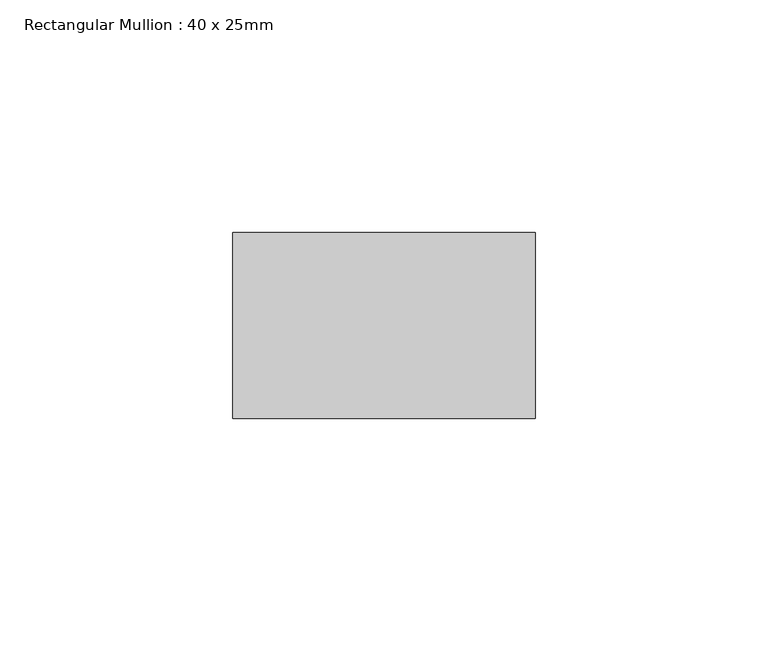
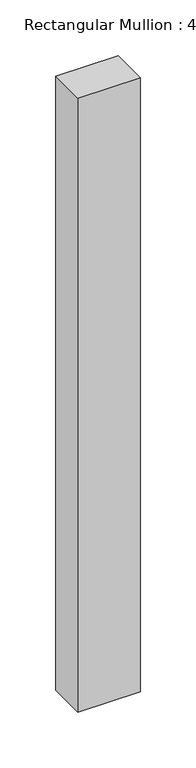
"""IFC4 building model written with IfcOpenShell, lengths in millimetres: member geometry, Rectangular Mullion : 40 x 25mm."""

import ifcopenshell
import ifcopenshell.guid

model = None  # the IFC model being written
_history = None  # IfcOwnerHistory: only IFC2X3 demands one
_inside = {}  # id of a spatial element -> (the spatial element, [elements in it])
_under = {}  # id of a project, library or spatial element -> (it, [spatial elements below it])
_declared = {}  # id of a project -> (the project, [libraries it declares])
_typed = {}  # id of a type object -> (the type object, [elements of that type])
_made_of = {}  # id of a material, layer set ... -> (it, [elements and type objects made of it])


def new_model(schema):
    """Start an empty IFC model of exactly this schema.

    Asked for "IFC4X3", IfcOpenShell would pick the latest addendum, in which some entities
    have other attributes; the version numbers below select the first issue.
    IFC2X3 requires an IfcOwnerHistory on every rooted entity: one is made here for all.
    """
    global model, _history
    if schema == "IFC4X3":
        model = ifcopenshell.file(schema_version=(4, 3, 0, 0))
    else:
        model = ifcopenshell.file(schema=schema)
    _inside.clear()
    _under.clear()
    _declared.clear()
    _typed.clear()
    _made_of.clear()
    _history = None
    if model.schema == "IFC2X3":
        org = make("IfcOrganization", Name="unknown")
        user = make(
            "IfcPersonAndOrganization",
            ThePerson=make("IfcPerson", FamilyName="unknown"),
            TheOrganization=org,
        )
        app = make(
            "IfcApplication",
            ApplicationDeveloper=org,
            Version="unknown",
            ApplicationFullName="unknown",
            ApplicationIdentifier="unknown",
        )
        _history = make(
            "IfcOwnerHistory",
            OwningUser=user,
            OwningApplication=app,
            ChangeAction="ADDED",
            CreationDate=0,
        )
    return model


def make(cls, **values):
    """One entity of the class cls with the attributes given. An attribute that is None is left unset."""
    return model.create_entity(
        cls, **{name: value for name, value in values.items() if value is not None}
    )


def rooted(cls, **values):
    """An entity with a GlobalId (a new one), such as an element, a storey or a relation."""
    return make(cls, GlobalId=ifcopenshell.guid.new(), OwnerHistory=_history, **values)


def si_unit(unit_type, name, prefix=None):
    """IfcSIUnit, for example si_unit("LENGTHUNIT", "METRE", prefix="MILLI")."""
    return make("IfcSIUnit", UnitType=unit_type, Prefix=prefix, Name=name)


def assignment(units):
    """IfcUnitAssignment: the units of a project."""
    return None if units is None else make("IfcUnitAssignment", Units=units)


def point(xyz):
    """IfcCartesianPoint."""
    return None if xyz is None else make("IfcCartesianPoint", Coordinates=xyz)


def direction(xyz):
    """IfcDirection."""
    return None if xyz is None else make("IfcDirection", DirectionRatios=xyz)


def frame(location, z_axis=None, x_axis=None):
    """IfcAxis2Placement3D, a coordinate frame: its origin and axes. An axis left out is left unset."""
    return make(
        "IfcAxis2Placement3D",
        Location=point(location),
        Axis=direction(z_axis),
        RefDirection=direction(x_axis),
    )


def origin():
    """The frame at (0, 0, 0) with its axes left unset."""
    return frame((0.0, 0.0, 0.0))


def place(relative_to, where):
    """IfcLocalPlacement: puts the frame where relative to a parent placement (None: the world)."""
    return make(
        "IfcLocalPlacement", PlacementRelTo=relative_to, RelativePlacement=where
    )


def context(
    kind, dimensions, precision=None, world=None, true_north=None, identifier=None
):
    """IfcGeometricRepresentationContext, for example the 3D "Model" context."""
    return make(
        "IfcGeometricRepresentationContext",
        ContextIdentifier=identifier,
        ContextType=kind,
        CoordinateSpaceDimension=dimensions,
        Precision=precision,
        WorldCoordinateSystem=world,
        TrueNorth=true_north,
    )


def project(units=None, contexts=None):
    """IfcProject with its units and contexts."""
    return rooted(
        "IfcProject",
        Name="project",
        RepresentationContexts=contexts,
        UnitsInContext=assignment(units),
    )


def spatial(cls, under=None, at=None, **own):
    """A site, building, storey or space (cls), placed at a placement, below another one or the project."""
    s = rooted(cls, ObjectPlacement=at, **own)
    if under is not None:
        _under.setdefault(under.id(), (under, []))[1].append(s)
    return s


def polyline(points):
    """IfcPolyline through the points."""
    return make("IfcPolyline", Points=[point(p) for p in points])


def outline(outer, holes=None, kind="AREA"):
    """IfcArbitraryClosedProfileDef: a profile drawn as a closed curve; with holes, ...WithVoids."""
    if holes is None:
        return make("IfcArbitraryClosedProfileDef", ProfileType=kind, OuterCurve=outer)
    return make(
        "IfcArbitraryProfileDefWithVoids",
        ProfileType=kind,
        OuterCurve=outer,
        InnerCurves=holes,
    )


def extrude(swept, where, along, depth):
    """IfcExtrudedAreaSolid: the profile swept, set in the frame where, extruded along a direction by depth."""
    return make(
        "IfcExtrudedAreaSolid",
        SweptArea=swept,
        Position=where,
        ExtrudedDirection=direction(along),
        Depth=depth,
    )


def shape(context_of_items, identifier, shape_type, items):
    """IfcShapeRepresentation: the items that make up one representation, for example the "Body"."""
    return make(
        "IfcShapeRepresentation",
        ContextOfItems=context_of_items,
        RepresentationIdentifier=identifier,
        RepresentationType=shape_type,
        Items=items,
    )


def source(mapping_origin, context_of_items, identifier, shape_type, items):
    """IfcRepresentationMap: a shape defined once, which mapped items show again and again."""
    return make(
        "IfcRepresentationMap",
        MappingOrigin=mapping_origin,
        MappedRepresentation=shape(context_of_items, identifier, shape_type, items),
    )


def transform(
    local_origin,
    x_axis=None,
    y_axis=None,
    z_axis=None,
    scale=None,
    scale2=None,
    scale3=None,
    uniform=True,
):
    """IfcCartesianTransformationOperator3D, or its non-uniform kind. x_axis, y_axis, z_axis: its Axis1, 2, 3."""
    if uniform:
        return make(
            "IfcCartesianTransformationOperator3D",
            Axis1=direction(x_axis),
            Axis2=direction(y_axis),
            LocalOrigin=point(local_origin),
            Scale=scale,
            Axis3=direction(z_axis),
        )
    return make(
        "IfcCartesianTransformationOperator3DnonUniform",
        Axis1=direction(x_axis),
        Axis2=direction(y_axis),
        LocalOrigin=point(local_origin),
        Scale=scale,
        Axis3=direction(z_axis),
        Scale2=scale2,
        Scale3=scale3,
    )


def mapped(mapping_source, mapping_target):
    """IfcMappedItem: shows the shape of a source again, moved by a transform."""
    return make(
        "IfcMappedItem", MappingSource=mapping_source, MappingTarget=mapping_target
    )


def made_of(thing, what):
    """Note that an element or type object is made of a material, layer set ...; save() writes the relation."""
    if what is not None:
        _made_of.setdefault(what.id(), (what, []))[1].append(thing)
    return thing


def element(
    cls,
    number,
    at=None,
    inside=None,
    cuts=None,
    type_object=None,
    material=None,
    context=None,
    identifier="Body",
    shape_type=None,
    held_by="IfcProductDefinitionShape",
    body=None,
    shapes=None,
    **own,
):
    """One element of the class cls, such as IfcWall. Its Tag is "e" and its number.

    at: its placement. inside: the storey or other place that contains it. cuts: it is an
    opening in that element (IfcRelVoidsElement). A single representation is given by context,
    identifier, shape_type and body (its items); several are given by shapes. held_by: the class
    of the entity that holds the representations. save() writes the other relations.
    """
    e = rooted(cls, Tag="e%d" % number, ObjectPlacement=at, **own)
    if body is not None:
        shapes = [shape(context, identifier, shape_type, body)]
    if shapes is not None:
        e.Representation = make(held_by, Representations=shapes)
    if inside is not None:
        _inside.setdefault(inside.id(), (inside, []))[1].append(e)
    if cuts is not None:
        rooted(
            "IfcRelVoidsElement", RelatingBuildingElement=cuts, RelatedOpeningElement=e
        )
    if type_object is not None:
        _typed.setdefault(type_object.id(), (type_object, []))[1].append(e)
    return made_of(e, material)


def aggregate(whole, parts):
    """IfcRelAggregates: a whole, such as a stair, and the parts it consists of."""
    return rooted("IfcRelAggregates", RelatingObject=whole, RelatedObjects=parts)


def save(model, path):
    """Write the relations noted so far, then the file.

    IfcRelAggregates (storeys below a building ...), IfcRelContainedInSpatialStructure (elements
    in a storey), IfcRelDefinesByType, IfcRelAssociatesMaterial and IfcRelDeclares: one each for
    every whole, place, type object, material and project.
    """
    for whole, parts in _under.values():
        aggregate(whole, parts)
    for where, things in _inside.values():
        rooted(
            "IfcRelContainedInSpatialStructure",
            RelatedElements=things,
            RelatingStructure=where,
        )
    for kind, things in _typed.values():
        rooted("IfcRelDefinesByType", RelatedObjects=things, RelatingType=kind)
    for what, things in _made_of.values():
        rooted("IfcRelAssociatesMaterial", RelatedObjects=things, RelatingMaterial=what)
    for by, libraries in _declared.values():
        rooted("IfcRelDeclares", RelatingContext=by, RelatedDefinitions=libraries)
    model.write(path)


def rectangular_mullion_40_x_25mm_43907367(model_context):
    return source(origin(), model_context, "Body", "SweptSolid", [
        extrude(outline(polyline([(0.0, -20.0), (0.0, -60.0), (-65.0, -60.0), (-65.0, -20.0), (0.0, -20.0)])), frame((0.0, 0.0, -675.0), z_axis=(0.0, 0.0, 1.0), x_axis=(1.0, 0.0, 0.0)), (0.0, 0.0, 1.0), 675.0),
    ])


if __name__ == "__main__":
    model = new_model("IFC4")
    model_context = context("Model", 3, world=origin())
    ifc_project = project(units=[si_unit("LENGTHUNIT", "METRE", prefix="MILLI")], contexts=[model_context])
    site = spatial("IfcSite", under=ifc_project)
    building = spatial("IfcBuilding", under=site)
    placement = place(None, origin())
    rectangular_mullion_40_x_25mm_shape = rectangular_mullion_40_x_25mm_43907367(model_context)
    element("IfcMember", 1, ObjectType="Rectangular Mullion : 40 x 25mm", at=placement, inside=building, context=model_context, shape_type="MappedRepresentation", body=[
        mapped(rectangular_mullion_40_x_25mm_shape, transform((0.0, 0.0, 0.0), x_axis=(1.0, 0.0, 0.0), y_axis=(0.0, 1.0, 0.0), z_axis=(0.0, 0.0, 1.0))),
    ])
    save(model, "model.ifc")
